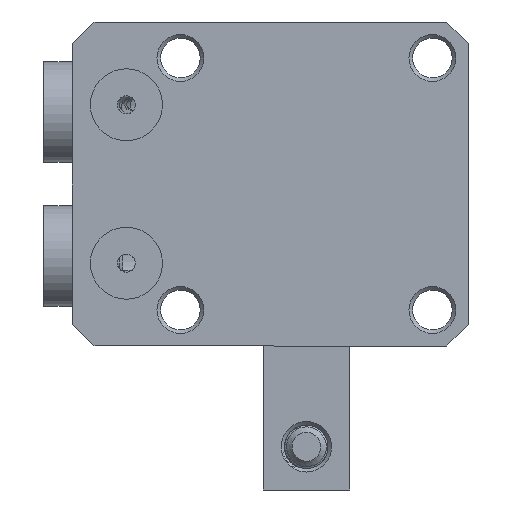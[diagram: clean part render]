
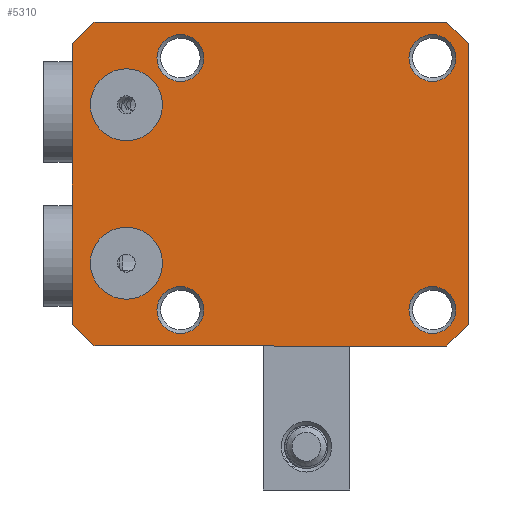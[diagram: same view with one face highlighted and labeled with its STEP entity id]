
A CAD part, front view. The second image highlights one B-rep face of the part: STEP entity #5310.
In plain terms, the highlighted planar face has unit normal (0, -1, 0).
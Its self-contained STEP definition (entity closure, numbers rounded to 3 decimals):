
#314=FACE_BOUND('',#841,.T.);
#315=FACE_BOUND('',#842,.T.);
#316=FACE_BOUND('',#843,.T.);
#317=FACE_BOUND('',#844,.T.);
#318=FACE_BOUND('',#845,.T.);
#319=FACE_BOUND('',#846,.T.);
#370=PLANE('',#5890);
#517=FACE_OUTER_BOUND('',#840,.T.);
#840=EDGE_LOOP('',(#3775,#3776,#3777,#3778,#3779,#3780,#3781,#3782));
#841=EDGE_LOOP('',(#3783));
#842=EDGE_LOOP('',(#3784));
#843=EDGE_LOOP('',(#3785));
#844=EDGE_LOOP('',(#3786));
#845=EDGE_LOOP('',(#3787));
#846=EDGE_LOOP('',(#3788));
#1198=LINE('',#8546,#1590);
#1217=LINE('',#8585,#1609);
#1218=LINE('',#8588,#1610);
#1219=LINE('',#8590,#1611);
#1220=LINE('',#8592,#1612);
#1221=LINE('',#8594,#1613);
#1222=LINE('',#8596,#1614);
#1223=LINE('',#8597,#1615);
#1590=VECTOR('',#6688,1000.);
#1609=VECTOR('',#6715,1000.);
#1610=VECTOR('',#6718,1000.);
#1611=VECTOR('',#6719,1000.);
#1612=VECTOR('',#6720,1000.);
#1613=VECTOR('',#6721,1000.);
#1614=VECTOR('',#6722,1000.);
#1615=VECTOR('',#6723,1000.);
#1970=CIRCLE('',#5820,3.25);
#1973=CIRCLE('',#5824,3.25);
#1976=CIRCLE('',#5828,3.25);
#1979=CIRCLE('',#5832,3.25);
#1981=CIRCLE('',#5835,5.);
#1983=CIRCLE('',#5838,5.);
#2286=VERTEX_POINT('',#8240);
#2289=VERTEX_POINT('',#8248);
#2292=VERTEX_POINT('',#8256);
#2295=VERTEX_POINT('',#8264);
#2297=VERTEX_POINT('',#8270);
#2299=VERTEX_POINT('',#8276);
#2338=VERTEX_POINT('',#8543);
#2339=VERTEX_POINT('',#8545);
#2355=VERTEX_POINT('',#8583);
#2356=VERTEX_POINT('',#8587);
#2357=VERTEX_POINT('',#8589);
#2358=VERTEX_POINT('',#8591);
#2359=VERTEX_POINT('',#8593);
#2360=VERTEX_POINT('',#8595);
#2812=EDGE_CURVE('',#2286,#2286,#1970,.T.);
#2816=EDGE_CURVE('',#2289,#2289,#1973,.T.);
#2820=EDGE_CURVE('',#2292,#2292,#1976,.T.);
#2824=EDGE_CURVE('',#2295,#2295,#1979,.T.);
#2827=EDGE_CURVE('',#2297,#2297,#1981,.T.);
#2830=EDGE_CURVE('',#2299,#2299,#1983,.T.);
#2889=EDGE_CURVE('',#2339,#2338,#1198,.T.);
#2909=EDGE_CURVE('',#2338,#2355,#1217,.T.);
#2910=EDGE_CURVE('',#2355,#2356,#1218,.T.);
#2911=EDGE_CURVE('',#2356,#2357,#1219,.T.);
#2912=EDGE_CURVE('',#2357,#2358,#1220,.T.);
#2913=EDGE_CURVE('',#2358,#2359,#1221,.T.);
#2914=EDGE_CURVE('',#2359,#2360,#1222,.T.);
#2915=EDGE_CURVE('',#2360,#2339,#1223,.T.);
#3775=ORIENTED_EDGE('',*,*,#2909,.T.);
#3776=ORIENTED_EDGE('',*,*,#2910,.T.);
#3777=ORIENTED_EDGE('',*,*,#2911,.T.);
#3778=ORIENTED_EDGE('',*,*,#2912,.T.);
#3779=ORIENTED_EDGE('',*,*,#2913,.T.);
#3780=ORIENTED_EDGE('',*,*,#2914,.T.);
#3781=ORIENTED_EDGE('',*,*,#2915,.T.);
#3782=ORIENTED_EDGE('',*,*,#2889,.T.);
#3783=ORIENTED_EDGE('',*,*,#2812,.T.);
#3784=ORIENTED_EDGE('',*,*,#2816,.T.);
#3785=ORIENTED_EDGE('',*,*,#2820,.T.);
#3786=ORIENTED_EDGE('',*,*,#2824,.T.);
#3787=ORIENTED_EDGE('',*,*,#2827,.T.);
#3788=ORIENTED_EDGE('',*,*,#2830,.T.);
#5310=ADVANCED_FACE('',(#517,#314,#315,#316,#317,#318,#319),#370,.T.);
#5820=AXIS2_PLACEMENT_3D('',#8242,#6529,#6530);
#5824=AXIS2_PLACEMENT_3D('',#8250,#6538,#6539);
#5828=AXIS2_PLACEMENT_3D('',#8258,#6547,#6548);
#5832=AXIS2_PLACEMENT_3D('',#8266,#6556,#6557);
#5835=AXIS2_PLACEMENT_3D('',#8272,#6563,#6564);
#5838=AXIS2_PLACEMENT_3D('',#8278,#6570,#6571);
#5890=AXIS2_PLACEMENT_3D('',#8586,#6716,#6717);
#6529=DIRECTION('center_axis',(0.,1.,0.));
#6530=DIRECTION('ref_axis',(0.,0.,-1.));
#6538=DIRECTION('center_axis',(0.,1.,0.));
#6539=DIRECTION('ref_axis',(0.,0.,-1.));
#6547=DIRECTION('center_axis',(0.,1.,0.));
#6548=DIRECTION('ref_axis',(0.,0.,-1.));
#6556=DIRECTION('center_axis',(0.,1.,0.));
#6557=DIRECTION('ref_axis',(0.,0.,-1.));
#6563=DIRECTION('center_axis',(0.,1.,0.));
#6564=DIRECTION('ref_axis',(0.,0.,-1.));
#6570=DIRECTION('center_axis',(0.,1.,0.));
#6571=DIRECTION('ref_axis',(0.,0.,-1.));
#6688=DIRECTION('',(1.,0.,0.));
#6715=DIRECTION('',(0.707,0.,0.707));
#6716=DIRECTION('center_axis',(0.,-1.,0.));
#6717=DIRECTION('ref_axis',(0.,0.,-1.));
#6718=DIRECTION('',(0.,0.,1.));
#6719=DIRECTION('',(-0.707,0.,0.707));
#6720=DIRECTION('',(-1.,0.,0.));
#6721=DIRECTION('',(-0.707,0.,-0.707));
#6722=DIRECTION('',(0.,0.,-1.));
#6723=DIRECTION('',(0.707,0.,-0.707));
#8240=CARTESIAN_POINT('',(480.63,64.989,20.75));
#8242=CARTESIAN_POINT('Origin',(480.63,64.989,17.5));
#8248=CARTESIAN_POINT('',(445.63,64.989,20.75));
#8250=CARTESIAN_POINT('Origin',(445.63,64.989,17.5));
#8256=CARTESIAN_POINT('',(445.63,64.989,-14.25));
#8258=CARTESIAN_POINT('Origin',(445.63,64.989,-17.5));
#8264=CARTESIAN_POINT('',(480.63,64.989,-14.25));
#8266=CARTESIAN_POINT('Origin',(480.63,64.989,-17.5));
#8270=CARTESIAN_POINT('',(438.13,64.989,-6.));
#8272=CARTESIAN_POINT('Origin',(438.13,64.989,-11.));
#8276=CARTESIAN_POINT('',(438.13,64.989,16.));
#8278=CARTESIAN_POINT('Origin',(438.13,64.989,11.));
#8543=CARTESIAN_POINT('',(482.63,64.989,-22.5));
#8545=CARTESIAN_POINT('',(433.63,64.989,-22.5));
#8546=CARTESIAN_POINT('',(433.63,64.989,-22.5));
#8583=CARTESIAN_POINT('',(485.63,64.989,-19.5));
#8585=CARTESIAN_POINT('',(482.63,64.989,-22.5));
#8586=CARTESIAN_POINT('Origin',(430.63,64.989,22.5));
#8587=CARTESIAN_POINT('',(485.63,64.989,19.5));
#8588=CARTESIAN_POINT('',(485.63,64.989,22.5));
#8589=CARTESIAN_POINT('',(482.63,64.989,22.5));
#8590=CARTESIAN_POINT('',(485.63,64.989,19.5));
#8591=CARTESIAN_POINT('',(433.63,64.989,22.5));
#8592=CARTESIAN_POINT('',(430.63,64.989,22.5));
#8593=CARTESIAN_POINT('',(430.63,64.989,19.5));
#8594=CARTESIAN_POINT('',(433.63,64.989,22.5));
#8595=CARTESIAN_POINT('',(430.63,64.989,-19.5));
#8596=CARTESIAN_POINT('',(430.63,64.989,22.5));
#8597=CARTESIAN_POINT('',(430.63,64.989,-19.5));
